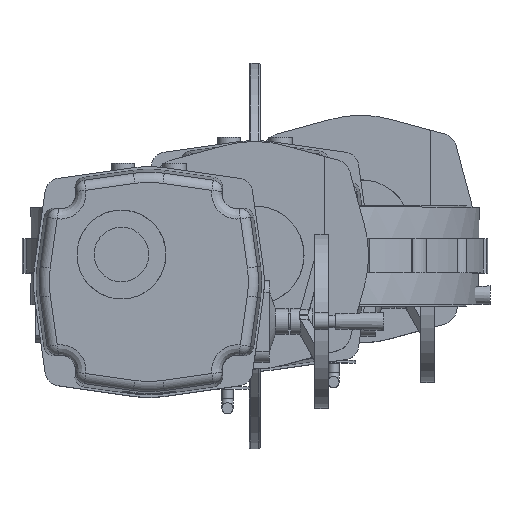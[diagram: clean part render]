
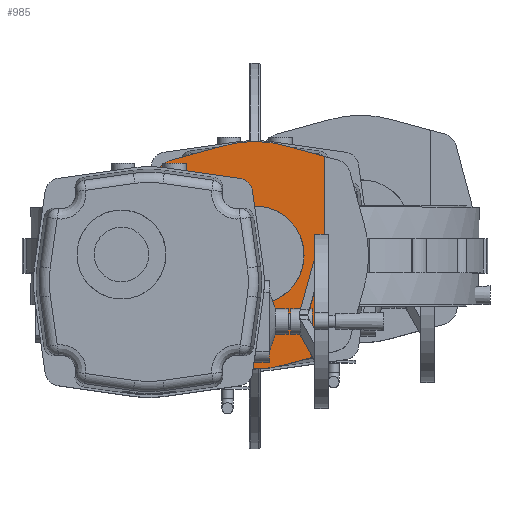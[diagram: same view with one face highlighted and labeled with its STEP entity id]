
A CAD part, top view. The second image highlights one B-rep face of the part: STEP entity #985.
In plain terms, the highlighted planar face has unit normal (0, 0, 1).
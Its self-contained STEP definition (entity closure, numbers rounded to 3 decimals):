
#985 = ADVANCED_FACE( '', ( #2472, #2473 ), #2474, .T. );
#2472 = FACE_BOUND( '', #5632, .T. );
#2473 = FACE_OUTER_BOUND( '', #5633, .T. );
#2474 = PLANE( '', #5634 );
#5632 = EDGE_LOOP( '', ( #12226 ) );
#5633 = EDGE_LOOP( '', ( #12227, #12228, #12229, #12230, #12231, #12232, #12233, #12234, #12235, #12236, #12237, #12238 ) );
#5634 = AXIS2_PLACEMENT_3D( '', #12239, #12240, #12241 );
#12226 = ORIENTED_EDGE( '', *, *, #17599, .F. );
#12227 = ORIENTED_EDGE( '', *, *, #17600, .F. );
#12228 = ORIENTED_EDGE( '', *, *, #17601, .T. );
#12229 = ORIENTED_EDGE( '', *, *, #17602, .T. );
#12230 = ORIENTED_EDGE( '', *, *, #17603, .T. );
#12231 = ORIENTED_EDGE( '', *, *, #17604, .T. );
#12232 = ORIENTED_EDGE( '', *, *, #17605, .T. );
#12233 = ORIENTED_EDGE( '', *, *, #17224, .T. );
#12234 = ORIENTED_EDGE( '', *, *, #17606, .T. );
#12235 = ORIENTED_EDGE( '', *, *, #17607, .T. );
#12236 = ORIENTED_EDGE( '', *, *, #17608, .T. );
#12237 = ORIENTED_EDGE( '', *, *, #17609, .T. );
#12238 = ORIENTED_EDGE( '', *, *, #17610, .T. );
#12239 = CARTESIAN_POINT( '', ( 124., 32., -260.5 ) );
#12240 = DIRECTION( '', ( 0., 0., 1. ) );
#12241 = DIRECTION( '', ( 1., 0., 0. ) );
#17224 = EDGE_CURVE( '', #19772, #19773, #19774, .F. );
#17599 = EDGE_CURVE( '', #20389, #20389, #20390, .T. );
#17600 = EDGE_CURVE( '', #20391, #20392, #20393, .T. );
#17601 = EDGE_CURVE( '', #20391, #20394, #20395, .T. );
#17602 = EDGE_CURVE( '', #20394, #20396, #20397, .T. );
#17603 = EDGE_CURVE( '', #20396, #20398, #20399, .T. );
#17604 = EDGE_CURVE( '', #20398, #20400, #20401, .T. );
#17605 = EDGE_CURVE( '', #20400, #19772, #20402, .T. );
#17606 = EDGE_CURVE( '', #19773, #20403, #20404, .T. );
#17607 = EDGE_CURVE( '', #20403, #20405, #20406, .T. );
#17608 = EDGE_CURVE( '', #20405, #20407, #20408, .T. );
#17609 = EDGE_CURVE( '', #20407, #20409, #20410, .T. );
#17610 = EDGE_CURVE( '', #20409, #20392, #20411, .T. );
#19772 = VERTEX_POINT( '', #25145 );
#19773 = VERTEX_POINT( '', #25146 );
#19774 = CIRCLE( '', #25147, 54.904 );
#20389 = VERTEX_POINT( '', #27435 );
#20390 = CIRCLE( '', #27436, 57.5 );
#20391 = VERTEX_POINT( '', #27437 );
#20392 = VERTEX_POINT( '', #27438 );
#20393 = LINE( '', #27439, #27440 );
#20394 = VERTEX_POINT( '', #27441 );
#20395 = LINE( '', #27442, #27443 );
#20396 = VERTEX_POINT( '', #27444 );
#20397 = CIRCLE( '', #27445, 133. );
#20398 = VERTEX_POINT( '', #27446 );
#20399 = LINE( '', #27447, #27448 );
#20400 = VERTEX_POINT( '', #27449 );
#20401 = CIRCLE( '', #27450, 20. );
#20402 = LINE( '', #27451, #27452 );
#20403 = VERTEX_POINT( '', #27453 );
#20404 = LINE( '', #27454, #27455 );
#20405 = VERTEX_POINT( '', #27456 );
#20406 = CIRCLE( '', #27457, 20. );
#20407 = VERTEX_POINT( '', #27458 );
#20408 = LINE( '', #27459, #27460 );
#20409 = VERTEX_POINT( '', #27461 );
#20410 = CIRCLE( '', #27462, 133. );
#20411 = LINE( '', #27463, #27464 );
#25145 = CARTESIAN_POINT( '', ( -65.064, 75.831, -260.5 ) );
#25146 = CARTESIAN_POINT( '', ( -65.064, -11.831, -260.5 ) );
#25147 = AXIS2_PLACEMENT_3D( '', #34345, #34346, #34347 );
#27435 = CARTESIAN_POINT( '', ( 181.5, 32., -260.5 ) );
#27436 = AXIS2_PLACEMENT_3D( '', #34768, #34769, #34770 );
#27437 = CARTESIAN_POINT( '', ( 206., 147.467, -260.5 ) );
#27438 = CARTESIAN_POINT( '', ( 206., -83.467, -260.5 ) );
#27439 = CARTESIAN_POINT( '', ( 206., 32., -260.5 ) );
#27440 = VECTOR( '', #34771, 1000. );
#27441 = CARTESIAN_POINT( '', ( 159.064, 160.295, -260.5 ) );
#27442 = CARTESIAN_POINT( '', ( 221.273, 143.292, -260.5 ) );
#27443 = VECTOR( '', #34772, 1000. );
#27444 = CARTESIAN_POINT( '', ( 88.936, 160.295, -260.5 ) );
#27445 = AXIS2_PLACEMENT_3D( '', #34773, #34774, #34775 );
#27446 = CARTESIAN_POINT( '', ( 26.727, 143.292, -260.5 ) );
#27447 = CARTESIAN_POINT( '', ( 26.727, 143.292, -260.5 ) );
#27448 = VECTOR( '', #34776, 1000. );
#27449 = CARTESIAN_POINT( '', ( 19.956, 139.967, -260.5 ) );
#27450 = AXIS2_PLACEMENT_3D( '', #34777, #34778, #34779 );
#27451 = CARTESIAN_POINT( '', ( -65.064, 75.831, -260.5 ) );
#27452 = VECTOR( '', #34780, 1000. );
#27453 = CARTESIAN_POINT( '', ( 19.956, -75.967, -260.5 ) );
#27454 = CARTESIAN_POINT( '', ( -65.064, -11.831, -260.5 ) );
#27455 = VECTOR( '', #34781, 1000. );
#27456 = CARTESIAN_POINT( '', ( 26.727, -79.292, -260.5 ) );
#27457 = AXIS2_PLACEMENT_3D( '', #34782, #34783, #34784 );
#27458 = CARTESIAN_POINT( '', ( 88.936, -96.295, -260.5 ) );
#27459 = CARTESIAN_POINT( '', ( 88.936, -96.295, -260.5 ) );
#27460 = VECTOR( '', #34785, 1000. );
#27461 = CARTESIAN_POINT( '', ( 159.064, -96.295, -260.5 ) );
#27462 = AXIS2_PLACEMENT_3D( '', #34786, #34787, #34788 );
#27463 = CARTESIAN_POINT( '', ( 159.064, -96.295, -260.5 ) );
#27464 = VECTOR( '', #34789, 1000. );
#34345 = CARTESIAN_POINT( '', ( -32., 32., -260.5 ) );
#34346 = DIRECTION( '', ( 0., 0., 1. ) );
#34347 = DIRECTION( '', ( 1., 0., 0. ) );
#34768 = CARTESIAN_POINT( '', ( 124., 32., -260.5 ) );
#34769 = DIRECTION( '', ( 0., 0., 1. ) );
#34770 = DIRECTION( '', ( 1., 0., 0. ) );
#34771 = DIRECTION( '', ( 0., -1., 0. ) );
#34772 = DIRECTION( '', ( -0.965, 0.264, 0. ) );
#34773 = CARTESIAN_POINT( '', ( 124., 32., -260.5 ) );
#34774 = DIRECTION( '', ( 0., 0., 1. ) );
#34775 = DIRECTION( '', ( 1., 0., 0. ) );
#34776 = DIRECTION( '', ( -0.965, -0.264, 0. ) );
#34777 = CARTESIAN_POINT( '', ( 32., 124., -260.5 ) );
#34778 = DIRECTION( '', ( 0., 0., 1. ) );
#34779 = DIRECTION( '', ( 1., 0., 0. ) );
#34780 = DIRECTION( '', ( -0.798, -0.602, 0. ) );
#34781 = DIRECTION( '', ( 0.798, -0.602, 0. ) );
#34782 = CARTESIAN_POINT( '', ( 32., -60., -260.5 ) );
#34783 = DIRECTION( '', ( 0., 0., 1. ) );
#34784 = DIRECTION( '', ( 1., 0., 0. ) );
#34785 = DIRECTION( '', ( 0.965, -0.264, 0. ) );
#34786 = CARTESIAN_POINT( '', ( 124., 32., -260.5 ) );
#34787 = DIRECTION( '', ( 0., 0., 1. ) );
#34788 = DIRECTION( '', ( 1., 0., 0. ) );
#34789 = DIRECTION( '', ( 0.965, 0.264, 0. ) );
